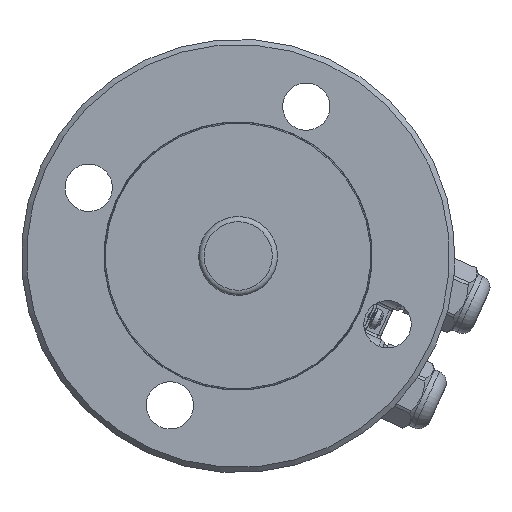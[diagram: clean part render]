
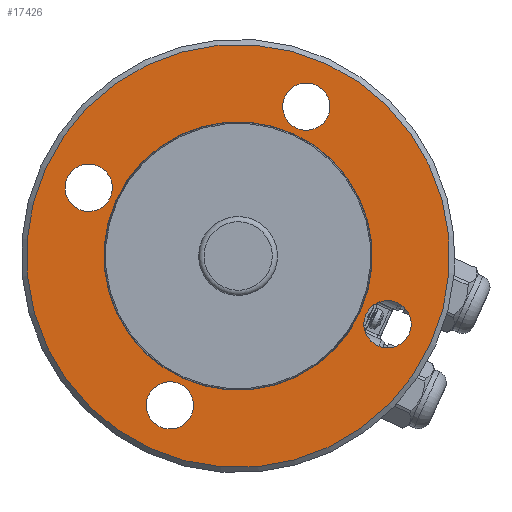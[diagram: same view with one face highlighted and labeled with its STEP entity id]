
A CAD part, front view. The second image highlights one B-rep face of the part: STEP entity #17426.
In plain terms, the highlighted planar face has unit normal (0, -1, 0).
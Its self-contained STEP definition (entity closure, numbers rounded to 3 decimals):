
#1290=FACE_BOUND('',#4694,.T.);
#1291=FACE_BOUND('',#4695,.T.);
#1292=FACE_BOUND('',#4696,.T.);
#1293=FACE_BOUND('',#4697,.T.);
#1294=FACE_BOUND('',#4698,.T.);
#2402=PLANE('',#19162);
#3448=FACE_OUTER_BOUND('',#4693,.T.);
#4693=EDGE_LOOP('',(#15850));
#4694=EDGE_LOOP('',(#15851));
#4695=EDGE_LOOP('',(#15852));
#4696=EDGE_LOOP('',(#15853));
#4697=EDGE_LOOP('',(#15854));
#4698=EDGE_LOOP('',(#15855));
#7088=CIRCLE('',#19146,9.);
#7090=CIRCLE('',#19149,9.);
#7092=CIRCLE('',#19152,9.);
#7094=CIRCLE('',#19155,9.);
#7098=CIRCLE('',#19161,51.1);
#7099=CIRCLE('',#19163,80.5);
#8638=VERTEX_POINT('',#46840);
#8640=VERTEX_POINT('',#46845);
#8642=VERTEX_POINT('',#46850);
#8644=VERTEX_POINT('',#46855);
#8648=VERTEX_POINT('',#46865);
#8649=VERTEX_POINT('',#46868);
#11073=EDGE_CURVE('',#8638,#8638,#7088,.T.);
#11075=EDGE_CURVE('',#8640,#8640,#7090,.T.);
#11077=EDGE_CURVE('',#8642,#8642,#7092,.T.);
#11079=EDGE_CURVE('',#8644,#8644,#7094,.T.);
#11083=EDGE_CURVE('',#8648,#8648,#7098,.T.);
#11084=EDGE_CURVE('',#8649,#8649,#7099,.T.);
#15850=ORIENTED_EDGE('',*,*,#11084,.F.);
#15851=ORIENTED_EDGE('',*,*,#11073,.T.);
#15852=ORIENTED_EDGE('',*,*,#11075,.T.);
#15853=ORIENTED_EDGE('',*,*,#11077,.T.);
#15854=ORIENTED_EDGE('',*,*,#11079,.T.);
#15855=ORIENTED_EDGE('',*,*,#11083,.T.);
#17426=ADVANCED_FACE('',(#3448,#1290,#1291,#1292,#1293,#1294),#2402,.T.);
#19146=AXIS2_PLACEMENT_3D('',#46841,#23213,#23214);
#19149=AXIS2_PLACEMENT_3D('',#46846,#23219,#23220);
#19152=AXIS2_PLACEMENT_3D('',#46851,#23225,#23226);
#19155=AXIS2_PLACEMENT_3D('',#46856,#23231,#23232);
#19161=AXIS2_PLACEMENT_3D('',#46866,#23243,#23244);
#19162=AXIS2_PLACEMENT_3D('',#46867,#23245,#23246);
#19163=AXIS2_PLACEMENT_3D('',#46869,#23247,#23248);
#23213=DIRECTION('center_axis',(0.,1.,0.));
#23214=DIRECTION('ref_axis',(-1.,0.,0.));
#23219=DIRECTION('center_axis',(0.,1.,0.));
#23220=DIRECTION('ref_axis',(-1.,0.,0.));
#23225=DIRECTION('center_axis',(0.,1.,0.));
#23226=DIRECTION('ref_axis',(-1.,0.,0.));
#23231=DIRECTION('center_axis',(0.,1.,0.));
#23232=DIRECTION('ref_axis',(-1.,0.,0.));
#23243=DIRECTION('center_axis',(0.,1.,0.));
#23244=DIRECTION('ref_axis',(1.,0.,0.));
#23245=DIRECTION('center_axis',(0.,-1.,0.));
#23246=DIRECTION('ref_axis',(0.,0.,-1.));
#23247=DIRECTION('center_axis',(0.,1.,0.));
#23248=DIRECTION('ref_axis',(1.,0.,0.));
#46840=CARTESIAN_POINT('',(9.,0.,-62.5));
#46841=CARTESIAN_POINT('Origin',(0.,0.,
-62.5));
#46845=CARTESIAN_POINT('',(9.,0.,62.5));
#46846=CARTESIAN_POINT('Origin',(0.,0.,62.5));
#46850=CARTESIAN_POINT('',(71.5,0.,0.));
#46851=CARTESIAN_POINT('Origin',(62.5,0.,0.));
#46855=CARTESIAN_POINT('',(-53.5,0.,0.));
#46856=CARTESIAN_POINT('Origin',(-62.5,0.,0.));
#46865=CARTESIAN_POINT('',(-51.1,0.,0.));
#46866=CARTESIAN_POINT('Origin',(0.,0.,0.));
#46867=CARTESIAN_POINT('Origin',(-80.5,0.,0.));
#46868=CARTESIAN_POINT('',(-80.5,0.,0.));
#46869=CARTESIAN_POINT('Origin',(0.,0.,0.));
